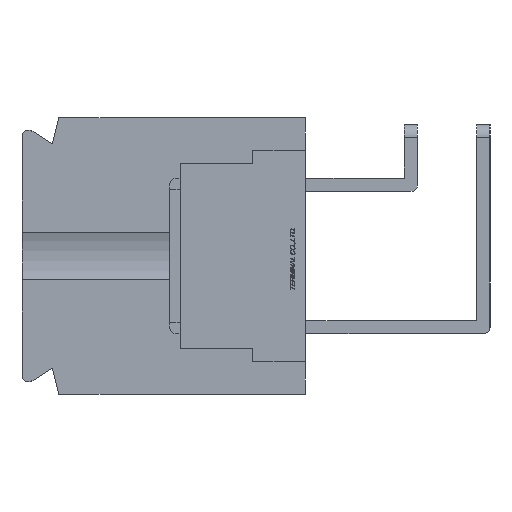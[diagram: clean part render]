
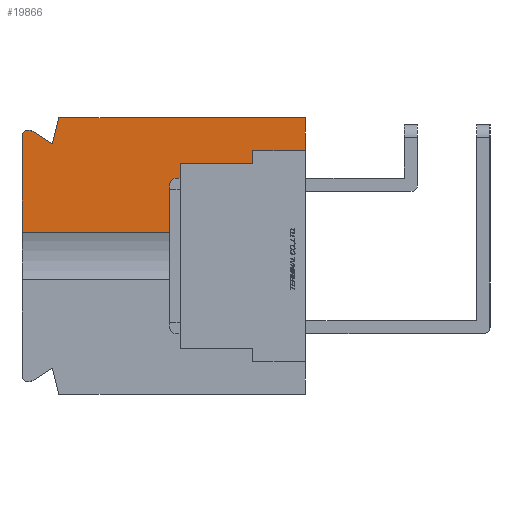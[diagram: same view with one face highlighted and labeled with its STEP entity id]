
A CAD part, left-side view. The second image highlights one B-rep face of the part: STEP entity #19866.
In plain terms, the highlighted planar face has unit normal (-1, 0, 0).
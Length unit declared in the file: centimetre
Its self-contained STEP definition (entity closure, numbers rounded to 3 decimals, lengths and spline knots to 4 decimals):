
#923=CIRCLE('',#33373,0.05);
#1193=VERTEX_POINT('',#25896);
#1194=VERTEX_POINT('',#25898);
#2180=VERTEX_POINT('',#29010);
#2181=VERTEX_POINT('',#29012);
#2186=VERTEX_POINT('',#29023);
#2188=VERTEX_POINT('',#29029);
#2190=VERTEX_POINT('',#29035);
#2191=VERTEX_POINT('',#29042);
#2192=VERTEX_POINT('',#29044);
#2193=VERTEX_POINT('',#29046);
#2194=VERTEX_POINT('',#29048);
#3250=VECTOR('',#21546,1.);
#4372=VECTOR('',#23874,1.);
#4377=VECTOR('',#23888,1.);
#4380=VECTOR('',#23892,1.);
#4383=VECTOR('',#23896,1.);
#4384=VECTOR('',#23898,1.);
#4385=VECTOR('',#23899,1.);
#4386=VECTOR('',#23900,1.);
#4387=VECTOR('',#23901,1.);
#4388=VECTOR('',#23902,1.);
#5595=LINE('',#25897,#3250);
#6717=LINE('',#29011,#4372);
#6722=LINE('',#29028,#4377);
#6725=LINE('',#29034,#4380);
#6728=LINE('',#29039,#4383);
#6729=LINE('',#29041,#4384);
#6730=LINE('',#29043,#4385);
#6731=LINE('',#29045,#4386);
#6732=LINE('',#29047,#4387);
#6733=LINE('',#29049,#4388);
#7982=EDGE_CURVE('',#1193,#1194,#5595,.T.);
#9471=EDGE_CURVE('',#2180,#2181,#6717,.T.);
#9478=EDGE_CURVE('',#2181,#2186,#923,.T.);
#9481=EDGE_CURVE('',#2186,#2188,#6722,.T.);
#9484=EDGE_CURVE('',#2188,#2190,#6725,.T.);
#9487=EDGE_CURVE('',#2190,#1193,#6728,.T.);
#9488=EDGE_CURVE('',#2191,#1194,#6729,.T.);
#9489=EDGE_CURVE('',#2180,#2192,#6730,.T.);
#9490=EDGE_CURVE('',#2192,#2193,#6731,.T.);
#9491=EDGE_CURVE('',#2193,#2194,#6732,.T.);
#9492=EDGE_CURVE('',#2194,#2191,#6733,.T.);
#14198=ORIENTED_EDGE('',*,*,#9488,.T.);
#14199=ORIENTED_EDGE('',*,*,#7982,.F.);
#14200=ORIENTED_EDGE('',*,*,#9487,.F.);
#14201=ORIENTED_EDGE('',*,*,#9484,.F.);
#14202=ORIENTED_EDGE('',*,*,#9481,.F.);
#14203=ORIENTED_EDGE('',*,*,#9478,.F.);
#14204=ORIENTED_EDGE('',*,*,#9471,.F.);
#14205=ORIENTED_EDGE('',*,*,#9489,.T.);
#14206=ORIENTED_EDGE('',*,*,#9490,.T.);
#14207=ORIENTED_EDGE('',*,*,#9491,.T.);
#14208=ORIENTED_EDGE('',*,*,#9492,.T.);
#17464=EDGE_LOOP('',(#14198,#14199,#14200,#14201,#14202,#14203,#14204,#14205,
#14206,#14207,#14208));
#18702=FACE_BOUND('',#17464,.T.);
#19866=ADVANCED_FACE('',(#18702),#20810,.F.);
#20810=PLANE('',#33377);
#21546=DIRECTION('',(0.,0.,-1.));
#23874=DIRECTION('',(0.,0.,1.));
#23883=DIRECTION('',(1.,0.,0.));
#23884=DIRECTION('',(0.,0.,-0.05));
#23888=DIRECTION('',(0.,-0.844,-0.536));
#23892=DIRECTION('',(0.,-0.243,0.97));
#23896=DIRECTION('',(0.,-1.,0.));
#23897=DIRECTION('',(1.,0.,0.));
#23898=DIRECTION('',(0.,-1.,0.));
#23899=DIRECTION('',(0.,-1.,0.));
#23900=DIRECTION('',(0.,0.,1.));
#23901=DIRECTION('',(0.,-1.,0.));
#23902=DIRECTION('',(0.,0.,1.));
#25896=CARTESIAN_POINT('',(-1.1,0.,1.05));
#25897=CARTESIAN_POINT('',(-1.1,0.,1.05));
#25898=CARTESIAN_POINT('',(-1.1,0.,0.8));
#29010=CARTESIAN_POINT('',(-1.1,2.15,0.1809));
#29011=CARTESIAN_POINT('',(-1.1,2.15,-0.905));
#29012=CARTESIAN_POINT('',(-1.1,2.15,0.905));
#29022=CARTESIAN_POINT('',(-1.1,2.1,0.905));
#29023=CARTESIAN_POINT('',(-1.1,2.0742,0.9478));
#29028=CARTESIAN_POINT('',(-1.1,2.0742,0.9478));
#29029=CARTESIAN_POINT('',(-1.1,1.92,0.85));
#29034=CARTESIAN_POINT('',(-1.1,1.92,0.85));
#29035=CARTESIAN_POINT('',(-1.1,1.87,1.05));
#29039=CARTESIAN_POINT('',(-1.1,1.87,1.05));
#29040=CARTESIAN_POINT('',(-1.1,1.082,0.));
#29041=CARTESIAN_POINT('',(-1.1,0.641,0.8));
#29042=CARTESIAN_POINT('',(-1.1,0.4,0.8));
#29043=CARTESIAN_POINT('',(-1.1,1.55,0.1809));
#29044=CARTESIAN_POINT('',(-1.1,0.95,0.1809));
#29045=CARTESIAN_POINT('',(-1.1,0.95,0.));
#29046=CARTESIAN_POINT('',(-1.1,0.95,0.7));
#29047=CARTESIAN_POINT('',(-1.1,0.8785,0.7));
#29048=CARTESIAN_POINT('',(-1.1,0.4,0.7));
#29049=CARTESIAN_POINT('',(-1.1,0.4,0.375));
#33373=AXIS2_PLACEMENT_3D('',#29022,#23883,#23884);
#33377=AXIS2_PLACEMENT_3D('',#29040,#23897,$);
